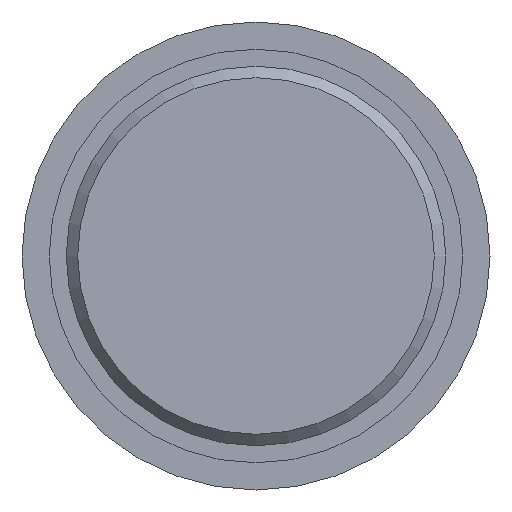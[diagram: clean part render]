
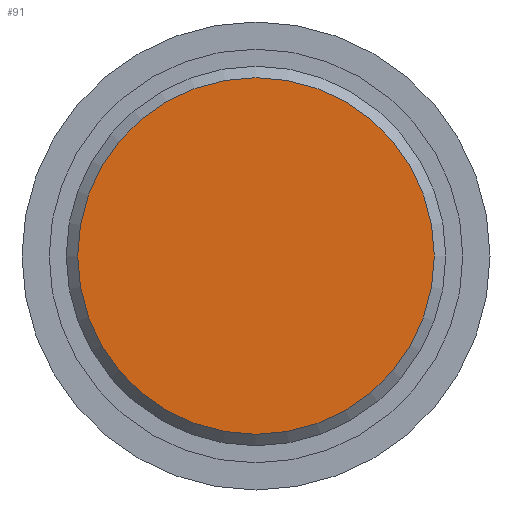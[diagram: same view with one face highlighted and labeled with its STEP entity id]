
A CAD part, front view. The second image highlights one B-rep face of the part: STEP entity #91.
In plain terms, the highlighted planar face has unit normal (0, -1, 0).
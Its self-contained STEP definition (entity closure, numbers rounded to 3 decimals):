
#91 = ADVANCED_FACE( '', ( #138 ), #139, .F. );
#138 = FACE_OUTER_BOUND( '', #193, .T. );
#139 = PLANE( '', #194 );
#193 = EDGE_LOOP( '', ( #308 ) );
#194 = AXIS2_PLACEMENT_3D( '', #309, #310, #311 );
#308 = ORIENTED_EDGE( '', *, *, #359, .T. );
#309 = CARTESIAN_POINT( '', ( 14.1, 0., 0. ) );
#310 = DIRECTION( '', ( 0., 1., 0. ) );
#311 = DIRECTION( '', ( 0., 0., 1. ) );
#359 = EDGE_CURVE( '', #411, #411, #412, .T. );
#411 = VERTEX_POINT( '', #485 );
#412 = CIRCLE( '', #486, 14.1 );
#485 = CARTESIAN_POINT( '', ( 0., 0., -14.1 ) );
#486 = AXIS2_PLACEMENT_3D( '', #538, #539, #540 );
#538 = CARTESIAN_POINT( '', ( 0., 0., 0. ) );
#539 = DIRECTION( '', ( 0., -1., 0. ) );
#540 = DIRECTION( '', ( 0., 0., -1. ) );
